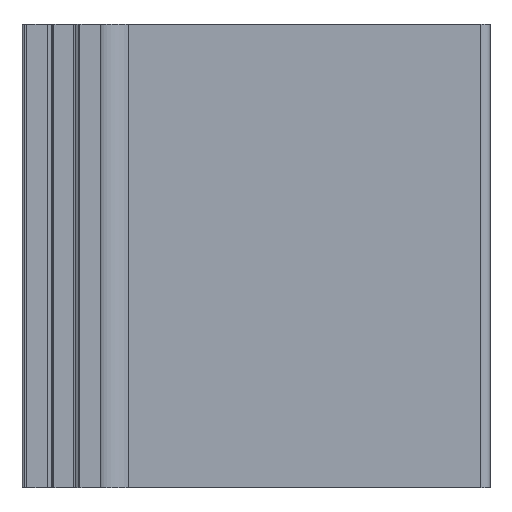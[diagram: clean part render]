
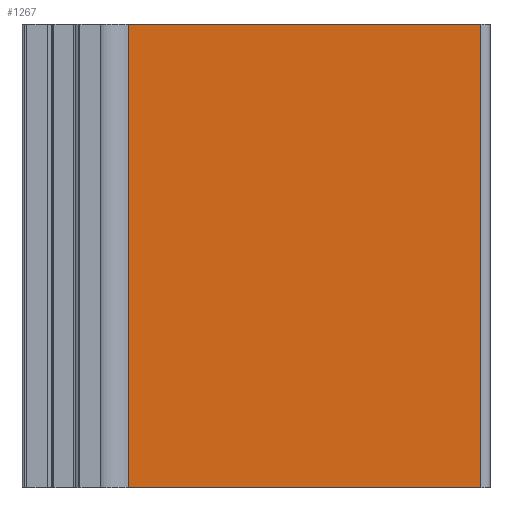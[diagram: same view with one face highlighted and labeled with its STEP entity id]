
A CAD part, front view. The second image highlights one B-rep face of the part: STEP entity #1267.
In plain terms, the highlighted planar face has unit normal (0, -1, 0).
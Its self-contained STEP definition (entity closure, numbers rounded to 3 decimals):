
#259 = EDGE_LOOP ( 'NONE', ( #1148, #6828, #6243, #421 ) ) ;
#421 = ORIENTED_EDGE ( 'NONE', *, *, #3117, .T. ) ;
#878 = VERTEX_POINT ( 'NONE', #4560 ) ;
#1148 = ORIENTED_EDGE ( 'NONE', *, *, #6877, .T. ) ;
#1267 = ADVANCED_FACE ( 'NONE', ( #6056 ), #6057, .F. ) ;
#1413 = CARTESIAN_POINT ( 'NONE',  ( 11., 12.5, 50. ) ) ;
#1689 = VERTEX_POINT ( 'NONE', #1413 ) ;
#1997 = CARTESIAN_POINT ( 'NONE',  ( 11., 12.5, 0. ) ) ;
#2156 = LINE ( 'NONE', #2157, #2158 ) ;
#2157 = CARTESIAN_POINT ( 'NONE',  ( 11., 12.5, 50. ) ) ;
#2158 = VECTOR ( 'NONE', #2159, 1000. ) ;
#2159 = DIRECTION ( 'NONE',  ( 0., 0., -1. ) ) ;
#2794 = VERTEX_POINT ( 'NONE', #1997 ) ;
#3117 = EDGE_CURVE ( 'NONE', #1689, #2794, #2156, .T. ) ;
#3650 = LINE ( 'NONE', #3651, #3652 ) ;
#3651 = CARTESIAN_POINT ( 'NONE',  ( 11., 12.5, 50. ) ) ;
#3652 = VECTOR ( 'NONE', #3653, 1000. ) ;
#3653 = DIRECTION ( 'NONE',  ( 1., 0., 0. ) ) ;
#4560 = CARTESIAN_POINT ( 'NONE',  ( 49., 12.5, 50. ) ) ;
#4814 = LINE ( 'NONE', #4815, #4816 ) ;
#4815 = CARTESIAN_POINT ( 'NONE',  ( 49., 12.5, 50. ) ) ;
#4816 = VECTOR ( 'NONE', #4817, 1000. ) ;
#4817 = DIRECTION ( 'NONE',  ( 0., 0., -1. ) ) ;
#5537 = CARTESIAN_POINT ( 'NONE',  ( 49., 12.5, 0. ) ) ;
#5624 = LINE ( 'NONE', #5625, #5628 ) ;
#5625 = CARTESIAN_POINT ( 'NONE',  ( 11., 12.5, 0. ) ) ;
#5628 = VECTOR ( 'NONE', #5629, 1000. ) ;
#5629 = DIRECTION ( 'NONE',  ( 1., 0., 0. ) ) ;
#6056 = FACE_OUTER_BOUND ( 'NONE', #259, .T. ) ;
#6057 = PLANE ( 'NONE',  #6058 ) ;
#6058 = AXIS2_PLACEMENT_3D ( 'NONE', #6059, #6060, #6061 ) ;
#6059 = CARTESIAN_POINT ( 'NONE',  ( 11., 12.5, 50. ) ) ;
#6060 = DIRECTION ( 'NONE',  ( 0., 1., 0. ) ) ;
#6061 = DIRECTION ( 'NONE',  ( 0., 0., 1. ) ) ;
#6068 = EDGE_CURVE ( 'NONE', #1689, #878, #3650, .T. ) ;
#6243 = ORIENTED_EDGE ( 'NONE', *, *, #6068, .F. ) ;
#6653 = EDGE_CURVE ( 'NONE', #878, #6852, #4814, .T. ) ;
#6828 = ORIENTED_EDGE ( 'NONE', *, *, #6653, .F. ) ;
#6852 = VERTEX_POINT ( 'NONE', #5537 ) ;
#6877 = EDGE_CURVE ( 'NONE', #2794, #6852, #5624, .T. ) ;
